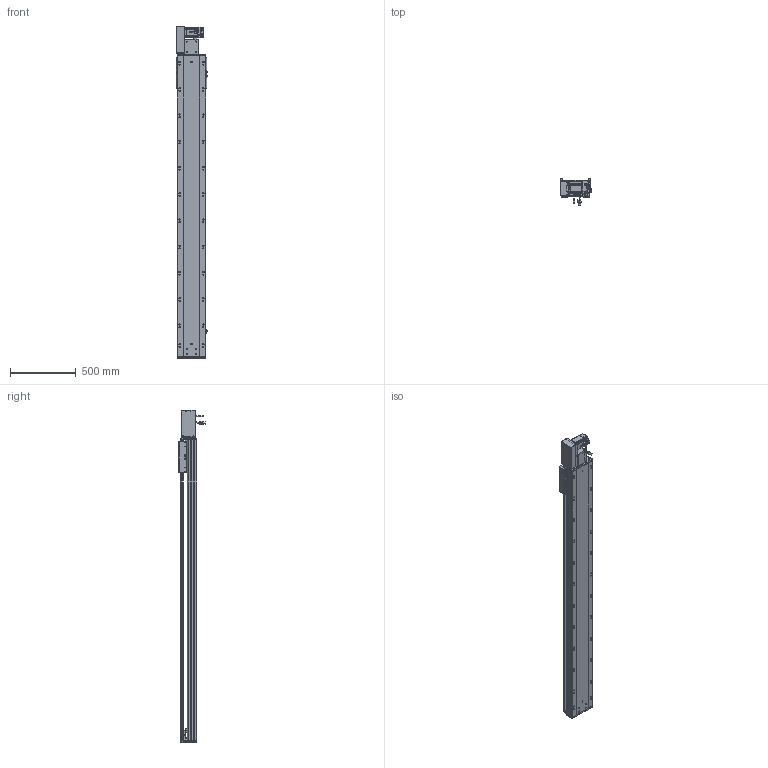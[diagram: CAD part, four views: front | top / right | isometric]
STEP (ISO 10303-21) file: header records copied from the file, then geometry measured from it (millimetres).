
FILE_DESCRIPTION (( 'STEP AP203' ), '1' );
FILE_NAME ('RY220-T-300-LK.SLDASM_1950.step', '2022-07-25T08:15:09', ( '' ), ( '' ), 'SwSTEP 2.0', 'SolidWorks 2016', '' );
FILE_SCHEMA (( 'CONFIG_CONTROL_DESIGN' ));
Length unit declared in the file: millimetre
Products named in the file (14): 怢湛750W_ECMA-CX0807ES; RY220-T菁釱-300_1950; RY220-俋离672覜茼んえ; RY220-T-湍謫欶(鍼踢); RY220圉猾敕々湍臏賑輸; RY220翋肮祭謫裔啣; RY220-T-300-LK.SLDASM_1950; 覜茼ん672; 滅袉蝶18-15; RY220-同步轮副支撑座6304×2; 110A-T-肮祭謫釱傷裔; RY220-T-300-奻裔啣_1950; RY220翋肮祭謫釱; RY220-T-蛌殏萇儂假蚾啣(750W)
Assembly tree (18 placements, depth 2):
  RY220-T-300-LK.SLDASM_1950
    RY220-T菁釱-300_1950
    RY220翋肮祭謫釱
    覜茼ん672  x3
    RY220圉猾敕々湍臏賑輸
    RY220-T-300-奻裔啣_1950
    RY220-俋离672覜茼んえ
    滅袉蝶18-15  x3
    RY220翋肮祭謫裔啣  x2
    110A-T-肮祭謫釱傷裔
    怢湛750W_ECMA-CX0807ES
    RY220-T-湍謫欶(鍼踢)
    RY220-T-蛌殏萇儂假蚾啣(750W)
    RY220-同步轮副支撑座6304×2
Bounding box: 239.7 x 198.77 x 2529 mm (x, y, z)
Volume: 18408120.2 mm3; surface area: 5584446.4 mm2
Topology: 19 solids, 19 shells, 2822 faces, 7795 edges, 4910 vertices
Faces by surface type: cylinder 1358, plane 1069, cone 313, bspline 56, sphere 16, torus 10
Entity records: 93955 total; most frequent: CARTESIAN_POINT 26627, ORIENTED_EDGE 13946, DIRECTION 13336, EDGE_CURVE 6973, AXIS2_PLACEMENT_3D 4768, VERTEX_POINT 4534, VECTOR 3800, LINE 3800
